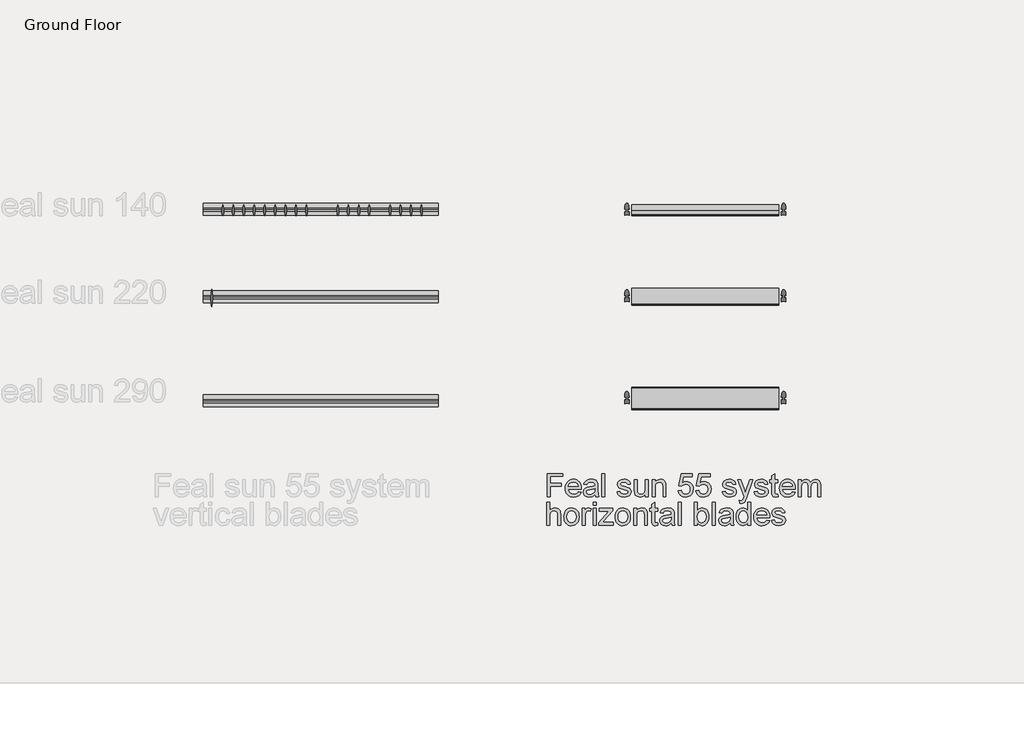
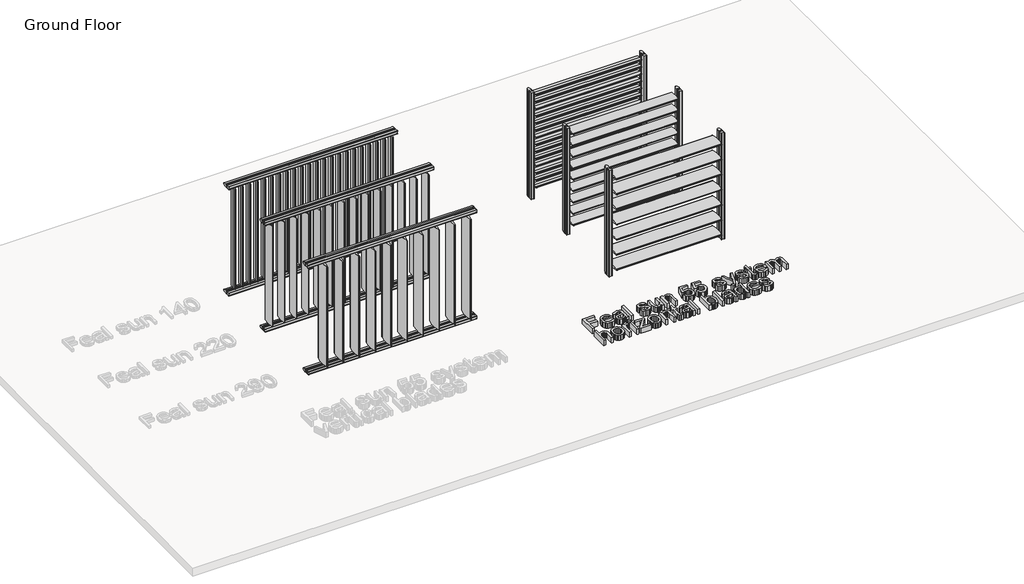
# One storey, part 3 of 3: 7 proxies.
"""IFC4 building model written with IfcOpenShell, lengths in millimetres."""

from ifc_helpers import new_model, si_unit, origin, origin_with_axes, place, context, project, spatial, polyline, outline, extrude, transform, mapped, element, save
from components import generic_models_d16fba78, generic_models_11b92442, generic_models_9e7b77c4, fsb_vertical_fsb_vertical_140_fa5a06af, fsb_vertical_fsb_vertical_140_c8c1adf7, fsb_vertical_fsb_vertical_220_f4ea950b, fsb_vertical_fsb_vertical_220_ec3d4603, fsb_vertical_fsb_vertical_290_152b3b5a

model = new_model("IFC4")

# Units and contexts
model_context = context("Model", 3, world=origin())
ifc_project = project(units=[si_unit("LENGTHUNIT", "METRE", prefix="MILLI")], contexts=[model_context])

# Site, building, storey
site = spatial("IfcSite", under=ifc_project)
building = spatial("IfcBuilding", under=site)
storey = spatial("IfcBuildingStorey", under=building, Name="Ground Floor", Elevation=0.0)

# Proxies
placement = place(None, origin())
generic_models_shape = generic_models_d16fba78(model_context)
element("IfcBuildingElementProxy", 1, Name="FSB_horizotal : FSB_horizotal_140", ObjectType="FSB_horizotal : FSB_horizotal_140", at=placement, inside=storey, context=model_context, shape_type="MappedRepresentation", body=[
    mapped(generic_models_shape, transform((7216.0522599, -5116.0917915, 0.0), x_axis=(1.0, 0.0, 0.0), y_axis=(0.0, 1.0, 0.0), z_axis=(0.0, 0.0, 1.0))),
])
generic_models_2_shape = generic_models_11b92442(model_context)
element("IfcBuildingElementProxy", 2, Name="FSB_horizotal : FSB_horizotal_220", ObjectType="FSB_horizotal : FSB_horizotal_220", at=placement, inside=storey, context=model_context, shape_type="MappedRepresentation", body=[
    mapped(generic_models_2_shape, transform((7216.0522599, -6216.0917915, 0.0), x_axis=(1.0, 0.0, 0.0), y_axis=(0.0, 1.0, 0.0), z_axis=(0.0, 0.0, 1.0))),
])
generic_models_3_shape = generic_models_9e7b77c4(model_context)
element("IfcBuildingElementProxy", 3, Name="FSB_horizotal : FSB_horizotal_290", ObjectType="FSB_horizotal : FSB_horizotal_290", at=placement, inside=storey, context=model_context, shape_type="MappedRepresentation", body=[
    mapped(generic_models_3_shape, transform((7216.0522599, -7516.0917915, 0.0), x_axis=(1.0, 0.0, 0.0), y_axis=(0.0, 1.0, 0.0), z_axis=(0.0, 0.0, 1.0))),
])
element("IfcBuildingElementProxy", 4, Name="600mm Arial", ObjectType="600mm Arial", at=placement, inside=storey, context=model_context, shape_type="SweptSolid", body=[
    extrude(outline(polyline([(5199.9729816, -8768.2185597), (5199.9729816, -8472.8339444), (5398.43452, -8472.8339444), (5398.43452, -8509.7570213), (5236.8960585, -8509.7570213), (5236.8960585, -8597.449329), (5375.357597, -8597.449329), (5375.357597, -8634.3724059), (5236.8960585, -8634.3724059), (5236.8960585, -8768.2185597), (5199.9729816, -8768.2185597)])), origin_with_axes(), (0.0, 0.0, 1.0), 100.0),
    extrude(outline(polyline([(5596.4633662, -8703.6031751), (5632.6652893, -8708.2185597), (5619.6214191, -8735.496204), (5598.8071162, -8755.886829), (5570.6911306, -8768.5971655), (5535.7422123, -8772.8339444), (5512.8320561, -8771.0062701), (5492.418895, -8765.5232472), (5474.5027292, -8756.3848759), (5459.0835585, -8743.5911559), (5446.6842196, -8727.4981571), (5437.8275489, -8708.4619492), (5432.5135465, -8686.4825321), (5430.7422123, -8661.5599059), (5432.5315753, -8635.7921775), (5437.8996643, -8613.0803386), (5446.8464792, -8593.4243891), (5459.37202, -8576.824329), (5474.7506258, -8563.636228), (5492.2566354, -8554.2161559), (5511.8900489, -8548.5641126), (5533.6508662, -8546.6800982), (5554.7108121, -8548.5596054), (5573.7560345, -8554.1981271), (5590.7865333, -8563.5956631), (5605.8023085, -8576.7522136), (5618.0596703, -8593.316216), (5626.8149287, -8612.9361078), (5632.0680837, -8635.6118891), (5633.8191354, -8661.3435597), (5633.6027893, -8671.2954828), (5467.6652893, -8671.2954828), (5474.0565152, -8698.933704), (5488.90327, -8719.2522136), (5510.3305537, -8731.746204), (5536.4633662, -8735.9108674), (5556.1148085, -8733.9817809), (5572.6652893, -8728.1945213), (5586.1148085, -8718.1885117), (5596.4633662, -8703.6031751)]), holes=[polyline([(5467.6652893, -8634.3724059), (5596.8960585, -8634.3724059), (5591.9020681, -8614.8651944), (5582.1124047, -8600.9108674), (5560.5859623, -8587.9300982), (5533.5066354, -8583.6031751), (5508.6178133, -8587.0556992), (5488.0378854, -8597.4132713), (5473.731996, -8613.558103), (5467.6652893, -8634.3724059)])]), origin_with_axes(), (0.0, 0.0, 1.0), 100.0),
    extrude(outline(polyline([(5809.2037508, -8740.5262521), (5791.5625248, -8755.652454), (5773.3984623, -8765.5502905), (5754.2968998, -8771.0130309), (5733.8431739, -8772.8339444), (5702.9868037, -8768.4529347), (5680.2253854, -8755.3099059), (5666.1899287, -8735.3519732), (5661.5114431, -8710.5262521), (5663.27827, -8695.2197617), (5668.5787508, -8681.3195213), (5676.7548325, -8669.4204828), (5687.1484623, -8660.1175982), (5713.0018277, -8648.0022136), (5744.9489431, -8642.449329), (5782.701347, -8636.6079828), (5808.9874047, -8629.7570213), (5809.2037508, -8621.5358674), (5806.6616835, -8605.0575021), (5799.0354816, -8594.2762521), (5781.9801931, -8586.2714444), (5758.2181739, -8583.6031751), (5736.2229816, -8585.3790165), (5720.8624047, -8590.7065405), (5710.387645, -8600.5593049), (5703.0499047, -8615.9108674), (5666.1268277, -8611.2954828), (5672.5360825, -8591.1031751), (5682.1003854, -8575.2377905), (5695.7121643, -8563.1043771), (5714.263847, -8554.1079828), (5736.9531498, -8548.5370694), (5762.9777893, -8546.6800982), (5787.9387268, -8548.3207232), (5807.7253854, -8553.2425982), (5822.6442556, -8560.6434396), (5833.0018277, -8569.7209636), (5839.8708181, -8580.9439203), (5844.3239431, -8594.7810597), (5846.1268277, -8627.0887521), (5846.1268277, -8673.0262521), (5848.0018277, -8737.1728867), (5855.357597, -8768.2185597), (5818.43452, -8768.2185597), (5809.2037508, -8740.5262521)]), holes=[polyline([(5809.2037508, -8666.6800982), (5749.6364431, -8678.0022136), (5717.8696162, -8683.9877905), (5703.482597, -8693.7233674), (5698.43452, -8707.9300982), (5701.1839191, -8718.9096655), (5709.4321162, -8727.9060597), (5722.9988229, -8733.9096655), (5741.7037508, -8735.9108674), (5761.5354816, -8733.7023338), (5779.05952, -8727.0767328), (5793.2662508, -8717.3141126), (5803.1460585, -8705.6945213), (5807.5270681, -8693.7233674), (5808.9874047, -8677.136829), (5809.2037508, -8666.6800982)])]), origin_with_axes(), (0.0, 0.0, 1.0), 100.0),
    extrude(outline(polyline([(5896.8960585, -8768.2185597), (5896.8960585, -8472.8339444), (5933.8191354, -8472.8339444), (5933.8191354, -8768.2185597), (5896.8960585, -8768.2185597)])), origin_with_axes(), (0.0, 0.0, 1.0), 100.0),
    extrude(outline(polyline([(6090.7422123, -8703.6031751), (6127.6652893, -8698.9877905), (6133.4886066, -8714.7810597), (6144.7566354, -8726.3916367), (6161.5414912, -8733.5310597), (6183.9152893, -8735.9108674), (6206.0186547, -8733.7293771), (6221.55952, -8727.1849059), (6230.7542316, -8717.7017328), (6233.8191354, -8706.7041367), (6230.7362027, -8697.293079), (6221.4874047, -8690.1175982), (6183.482597, -8679.5887521), (6127.8816354, -8661.5238482), (6113.810121, -8652.4463242), (6103.6148085, -8640.4300982), (6097.4218998, -8626.2413963), (6095.357597, -8610.6464444), (6097.0162508, -8596.3405549), (6101.9922123, -8583.1344251), (6109.8347604, -8571.5508915), (6120.0931739, -8562.1127905), (6143.5667316, -8551.1873097), (6175.3335585, -8546.6800982), (6199.3660104, -8548.4919972), (6220.2614431, -8553.9276944), (6237.0643277, -8562.4553386), (6248.8191354, -8573.543079), (6256.607597, -8588.011228), (6261.5114431, -8606.6800982), (6224.5883662, -8611.2954828), (6219.9279095, -8599.6758915), (6210.7061547, -8590.9228867), (6196.8329575, -8585.433103), (6178.2181739, -8583.6031751), (6157.0162508, -8585.3519732), (6142.8816354, -8590.5983674), (6134.9309143, -8598.1704828), (6132.2806739, -8606.8964444), (6136.6797123, -8617.6416367), (6150.4537508, -8625.7906751), (6182.2566354, -8633.6512521), (6236.451347, -8651.0310597), (6250.7662508, -8659.3423578), (6261.6196162, -8670.7185597), (6268.4615633, -8685.1957232), (6270.7422123, -8702.8099059), (6268.0649287, -8721.0190405), (6260.0330777, -8738.1464444), (6246.9531498, -8752.8489684), (6229.1316354, -8763.7834636), (6207.6051931, -8770.5713242), (6183.4104816, -8772.8339444), (6146.1809143, -8768.4709636), (6119.0114431, -8755.3820213), (6100.8744239, -8733.7113482), (6090.7422123, -8703.6031751)])), origin_with_axes(), (0.0, 0.0, 1.0), 100.0),
    extrude(outline(polyline([(6450.7422123, -8768.2185597), (6450.7422123, -8730.9349059), (6437.3828373, -8749.2657352), (6421.8239431, -8762.3591847), (6404.0655297, -8770.2152545), (6384.107597, -8772.8339444), (6366.1238229, -8770.9950021), (6349.3840393, -8765.4781751), (6335.3395681, -8757.1849059), (6325.4417316, -8747.0166367), (6314.4441354, -8719.8291367), (6312.2806739, -8685.5022136), (6312.2806739, -8551.2954828), (6349.2037508, -8551.2954828), (6349.2037508, -8668.1224059), (6351.4393277, -8705.7666367), (6356.8209383, -8718.323728), (6366.0426931, -8727.8700021), (6378.4916114, -8733.9006511), (6393.5547123, -8735.9108674), (6409.4831979, -8733.855579), (6424.3840393, -8727.6897136), (6436.6706979, -8717.9811799), (6444.7566354, -8705.2978867), (6449.2458181, -8687.9270934), (6450.7422123, -8664.1560597), (6450.7422123, -8551.2954828), (6487.6652893, -8551.2954828), (6487.6652893, -8768.2185597), (6450.7422123, -8768.2185597)])), origin_with_axes(), (0.0, 0.0, 1.0), 100.0),
    extrude(outline(polyline([(6538.43452, -8768.2185597), (6538.43452, -8551.2954828), (6575.357597, -8551.2954828), (6575.357597, -8581.5839444), (6588.185121, -8566.3135117), (6603.59077, -8555.4060597), (6621.5745441, -8548.8615886), (6642.1364431, -8546.6800982), (6660.3365633, -8548.4379107), (6677.0042316, -8553.7113482), (6690.904472, -8561.8423578), (6700.8023085, -8572.1728867), (6711.87202, -8599.324329), (6713.8191354, -8635.0214444), (6713.8191354, -8768.2185597), (6676.8960585, -8768.2185597), (6676.8960585, -8639.9974059), (6672.6412508, -8607.3291367), (6666.7548325, -8597.6025742), (6657.6051931, -8590.0575021), (6645.8774287, -8585.2167569), (6632.2566354, -8583.6031751), (6610.6310345, -8587.2269732), (6592.1965393, -8598.0983674), (6584.829502, -8606.973067), (6579.5673325, -8619.1019732), (6575.357597, -8653.1224059), (6575.357597, -8768.2185597), (6538.43452, -8768.2185597)])), origin_with_axes(), (0.0, 0.0, 1.0), 100.0),
    extrude(outline(polyline([(6870.7422123, -8689.7570213), (6907.6652893, -8685.1416367), (6914.4441354, -8707.308103), (6926.2710585, -8723.1825021), (6943.091972, -8732.7287761), (6964.8527893, -8735.9108674), (6991.3191354, -8731.4847857), (7011.1508662, -8718.2065405), (7023.5366835, -8697.6085838), (7027.6652893, -8671.2233674), (7023.7981018, -8646.3796174), (7012.1965393, -8627.3772136), (6992.7704575, -8615.3159155), (6965.4297123, -8611.2954828), (6947.5180537, -8612.9000501), (6933.013847, -8617.7137521), (6912.2806739, -8634.3724059), (6875.357597, -8629.7570213), (6907.6652893, -8477.449329), (7050.7422123, -8477.449329), (7050.7422123, -8514.3724059), (6937.5210585, -8514.3724059), (6921.7277893, -8595.7185597), (6948.1039912, -8579.7089444), (6975.7422123, -8574.3724059), (6993.7237328, -8576.0265525), (7010.2404095, -8580.9889924), (7025.2922424, -8589.2597256), (7038.8792316, -8600.8387521), (7050.126978, -8615.0184396), (7058.1610825, -8631.0911559), (7062.9815453, -8649.0569011), (7064.5883662, -8668.9156751), (7058.8011066, -8705.8387521), (7051.5670321, -8722.2990886), (7041.4393277, -8737.4252905), (7026.0967797, -8752.9165766), (7008.1941354, -8763.9817809), (6987.731395, -8770.6209035), (6964.7085585, -8772.8339444), (6928.4435345, -8767.1458434), (6913.0761967, -8760.0357172), (6899.5523085, -8750.0815405), (6888.3000549, -8737.7791066), (6879.747621, -8723.6242088), (6870.7422123, -8689.7570213)])), origin_with_axes(), (0.0, 0.0, 1.0), 100.0),
    extrude(outline(polyline([(7096.8960585, -8689.7570213), (7133.8191354, -8685.1416367), (7140.5979816, -8707.308103), (7152.4249047, -8723.1825021), (7169.2458181, -8732.7287761), (7191.0066354, -8735.9108674), (7217.4729816, -8731.4847857), (7237.3047123, -8718.2065405), (7249.6905297, -8697.6085838), (7253.8191354, -8671.2233674), (7249.9519479, -8646.3796174), (7238.3503854, -8627.3772136), (7218.9243037, -8615.3159155), (7191.5835585, -8611.2954828), (7173.6718998, -8612.9000501), (7159.1676931, -8617.7137521), (7138.43452, -8634.3724059), (7101.5114431, -8629.7570213), (7133.8191354, -8477.449329), (7276.8960585, -8477.449329), (7276.8960585, -8514.3724059), (7163.6749047, -8514.3724059), (7147.8816354, -8595.7185597), (7174.2578373, -8579.7089444), (7201.8960585, -8574.3724059), (7219.8775789, -8576.0265525), (7236.3942556, -8580.9889924), (7251.4460886, -8589.2597256), (7265.0330777, -8600.8387521), (7276.2808241, -8615.0184396), (7284.3149287, -8631.0911559), (7289.1353914, -8649.0569011), (7290.7422123, -8668.9156751), (7284.9549527, -8705.8387521), (7277.7208782, -8722.2990886), (7267.5931739, -8737.4252905), (7252.2506258, -8752.9165766), (7234.3479816, -8763.9817809), (7213.8852412, -8770.6209035), (7190.8624047, -8772.8339444), (7154.5973806, -8767.1458434), (7139.2300429, -8760.0357172), (7125.7061547, -8750.0815405), (7114.4539011, -8737.7791066), (7105.9014672, -8723.6242088), (7096.8960585, -8689.7570213)])), origin_with_axes(), (0.0, 0.0, 1.0), 100.0),
    extrude(outline(polyline([(7433.8191354, -8703.6031751), (7470.7422123, -8698.9877905), (7476.5655297, -8714.7810597), (7487.8335585, -8726.3916367), (7504.6184143, -8733.5310597), (7526.9922123, -8735.9108674), (7549.0955777, -8733.7293771), (7564.6364431, -8727.1849059), (7573.8311547, -8717.7017328), (7576.8960585, -8706.7041367), (7573.8131258, -8697.293079), (7564.5643277, -8690.1175982), (7526.55952, -8679.5887521), (7470.9585585, -8661.5238482), (7456.8870441, -8652.4463242), (7446.6917316, -8640.4300982), (7440.4988229, -8626.2413963), (7438.43452, -8610.6464444), (7440.0931739, -8596.3405549), (7445.0691354, -8583.1344251), (7452.9116835, -8571.5508915), (7463.170097, -8562.1127905), (7486.6436547, -8551.1873097), (7518.4104816, -8546.6800982), (7542.4429335, -8548.4919972), (7563.3383662, -8553.9276944), (7580.1412508, -8562.4553386), (7591.8960585, -8573.543079), (7599.68452, -8588.011228), (7604.5883662, -8606.6800982), (7567.6652893, -8611.2954828), (7563.0048325, -8599.6758915), (7553.7830777, -8590.9228867), (7539.9098806, -8585.433103), (7521.295097, -8583.6031751), (7500.0931739, -8585.3519732), (7485.9585585, -8590.5983674), (7478.0078373, -8598.1704828), (7475.357597, -8606.8964444), (7479.7566354, -8617.6416367), (7493.5306739, -8625.7906751), (7525.3335585, -8633.6512521), (7579.52827, -8651.0310597), (7593.8431739, -8659.3423578), (7604.6965393, -8670.7185597), (7611.5384864, -8685.1957232), (7613.8191354, -8702.8099059), (7611.1418518, -8721.0190405), (7603.1100008, -8738.1464444), (7590.0300729, -8752.8489684), (7572.2085585, -8763.7834636), (7550.6821162, -8770.5713242), (7526.4874047, -8772.8339444), (7489.2578373, -8768.4709636), (7462.0883662, -8755.3820213), (7443.951347, -8733.7113482), (7433.8191354, -8703.6031751)])), origin_with_axes(), (0.0, 0.0, 1.0), 100.0),
    extrude(outline(polyline([(7655.357597, -8851.2954828), (7650.7422123, -8815.7425982), (7669.4922123, -8818.9877905), (7687.0162508, -8814.9132713), (7697.7614431, -8803.5550982), (7707.857597, -8776.3675982), (7710.7422123, -8767.4252905), (7632.2806739, -8551.2954828), (7671.2229816, -8551.2954828), (7712.8335585, -8671.7281751), (7727.3287508, -8719.9012521), (7741.8239431, -8677.3531751), (7784.5883662, -8551.2954828), (7823.2422123, -8551.2954828), (7747.7374047, -8773.4108674), (7728.12202, -8821.5839444), (7718.0799527, -8836.9625501), (7706.7037508, -8847.6175982), (7693.4886066, -8853.8375501), (7677.9297123, -8855.9108674), (7655.357597, -8851.2954828)])), origin_with_axes(), (0.0, 0.0, 1.0), 100.0),
    extrude(outline(polyline([(7839.9729816, -8703.6031751), (7876.8960585, -8698.9877905), (7882.7193758, -8714.7810597), (7893.9874047, -8726.3916367), (7910.7722604, -8733.5310597), (7933.1460585, -8735.9108674), (7955.2494239, -8733.7293771), (7970.7902893, -8727.1849059), (7979.9850008, -8717.7017328), (7983.0499047, -8706.7041367), (7979.966972, -8697.293079), (7970.7181739, -8690.1175982), (7932.7133662, -8679.5887521), (7877.1124047, -8661.5238482), (7863.0408902, -8652.4463242), (7852.8455777, -8640.4300982), (7846.6526691, -8626.2413963), (7844.5883662, -8610.6464444), (7846.24702, -8596.3405549), (7851.2229816, -8583.1344251), (7859.0655297, -8571.5508915), (7869.3239431, -8562.1127905), (7892.7975008, -8551.1873097), (7924.5643277, -8546.6800982), (7948.5967797, -8548.4919972), (7969.4922123, -8553.9276944), (7986.295097, -8562.4553386), (7998.0499047, -8573.543079), (8005.8383662, -8588.011228), (8010.7422123, -8606.6800982), (7973.8191354, -8611.2954828), (7969.1586787, -8599.6758915), (7959.9369239, -8590.9228867), (7946.0637268, -8585.433103), (7927.4489431, -8583.6031751), (7906.24702, -8585.3519732), (7892.1124047, -8590.5983674), (7884.1616835, -8598.1704828), (7881.5114431, -8606.8964444), (7885.9104816, -8617.6416367), (7899.68452, -8625.7906751), (7931.4874047, -8633.6512521), (7985.6821162, -8651.0310597), (7999.99702, -8659.3423578), (8010.8503854, -8670.7185597), (8017.6923325, -8685.1957232), (8019.9729816, -8702.8099059), (8017.2956979, -8721.0190405), (8009.263847, -8738.1464444), (7996.1839191, -8752.8489684), (7978.3624047, -8763.7834636), (7956.8359623, -8770.5713242), (7932.6412508, -8772.8339444), (7895.4116835, -8768.4709636), (7868.2422123, -8755.3820213), (7850.1051931, -8733.7113482), (7839.9729816, -8703.6031751)])), origin_with_axes(), (0.0, 0.0, 1.0), 100.0),
    extrude(outline(polyline([(8139.9729816, -8737.4252905), (8144.5883662, -8769.3002905), (8116.9681739, -8772.8339444), (8099.2458181, -8771.3014924), (8086.0306739, -8766.7041367), (8076.6917316, -8759.6188001), (8070.5979816, -8750.6224059), (8067.2446162, -8735.1716847), (8066.1268277, -8708.7233674), (8066.1268277, -8588.2185597), (8038.43452, -8588.2185597), (8038.43452, -8551.2954828), (8066.1268277, -8551.2954828), (8066.1268277, -8498.5791367), (8103.0499047, -8476.8724059), (8103.0499047, -8551.2954828), (8139.9729816, -8551.2954828), (8139.9729816, -8588.2185597), (8103.0499047, -8588.2185597), (8103.0499047, -8707.6416367), (8104.99702, -8726.6800982), (8111.3071162, -8733.4228867), (8123.8912508, -8735.9108674), (8139.9729816, -8737.4252905)])), origin_with_axes(), (0.0, 0.0, 1.0), 100.0),
    extrude(outline(polyline([(8328.7710585, -8703.6031751), (8364.9729816, -8708.2185597), (8351.9291114, -8735.496204), (8331.1148085, -8755.886829), (8302.9988229, -8768.5971655), (8268.0499047, -8772.8339444), (8245.1397484, -8771.0062701), (8224.7265873, -8765.5232472), (8206.8104215, -8756.3848759), (8191.3912508, -8743.5911559), (8178.9919119, -8727.4981571), (8170.1352412, -8708.4619492), (8164.8212388, -8686.4825321), (8163.0499047, -8661.5599059), (8164.8392676, -8635.7921775), (8170.2073566, -8613.0803386), (8179.1541715, -8593.4243891), (8191.6797123, -8576.824329), (8207.0583181, -8563.636228), (8224.5643277, -8554.2161559), (8244.1977412, -8548.5641126), (8265.9585585, -8546.6800982), (8287.0185044, -8548.5596054), (8306.0637268, -8554.1981271), (8323.0942256, -8563.5956631), (8338.1100008, -8576.7522136), (8350.3673626, -8593.316216), (8359.122621, -8612.9361078), (8364.3757761, -8635.6118891), (8366.1268277, -8661.3435597), (8365.9104816, -8671.2954828), (8199.9729816, -8671.2954828), (8206.3642075, -8698.933704), (8221.2109623, -8719.2522136), (8242.638246, -8731.746204), (8268.7710585, -8735.9108674), (8288.4225008, -8733.9817809), (8304.9729816, -8728.1945213), (8318.4225008, -8718.1885117), (8328.7710585, -8703.6031751)]), holes=[polyline([(8199.9729816, -8634.3724059), (8329.2037508, -8634.3724059), (8324.2097604, -8614.8651944), (8314.420097, -8600.9108674), (8292.8936547, -8587.9300982), (8265.8143277, -8583.6031751), (8240.9255056, -8587.0556992), (8220.3455777, -8597.4132713), (8206.0396883, -8613.558103), (8199.9729816, -8634.3724059)])]), origin_with_axes(), (0.0, 0.0, 1.0), 100.0),
    extrude(outline(polyline([(8403.0499047, -8768.2185597), (8403.0499047, -8551.2954828), (8439.9729816, -8551.2954828), (8439.9729816, -8586.9925982), (8451.0787508, -8570.5953626), (8465.357597, -8557.7498097), (8482.3227412, -8549.4475261), (8501.4874047, -8546.6800982), (8522.0222604, -8549.5016126), (8538.482597, -8557.9661559), (8550.77827, -8571.5148338), (8558.8191354, -8589.5887521), (8572.2776691, -8570.816216), (8587.6292316, -8557.4072617), (8604.8738229, -8549.3618891), (8624.0114431, -8546.6800982), (8651.7668518, -8551.1422376), (8672.2926931, -8564.5286559), (8684.9759864, -8587.1999299), (8689.2037508, -8619.5166367), (8689.2037508, -8768.2185597), (8652.2806739, -8768.2185597), (8652.2806739, -8635.3820213), (8648.8551931, -8604.5526944), (8644.0414912, -8596.0520934), (8636.451347, -8589.3724059), (8626.6887268, -8585.0454828), (8615.357597, -8583.6031751), (8595.3545922, -8587.2990886), (8579.0475008, -8598.386829), (8568.2031498, -8617.6236078), (8564.5883662, -8645.7666367), (8564.5883662, -8768.2185597), (8527.6652893, -8768.2185597), (8527.6652893, -8631.2714444), (8525.528871, -8610.3940405), (8519.1196162, -8595.5022136), (8507.8425729, -8586.5779347), (8491.1027893, -8583.6031751), (8476.8780297, -8585.5863482), (8463.7710585, -8591.5358674), (8452.9537508, -8601.3075021), (8445.5979816, -8614.7570213), (8441.3792316, -8633.4168771), (8439.9729816, -8658.8195213), (8439.9729816, -8768.2185597), (8403.0499047, -8768.2185597)])), origin_with_axes(), (0.0, 0.0, 1.0), 100.0),
    extrude(outline(polyline([(5195.357597, -9132.8339444), (5195.357597, -8837.449329), (5232.2806739, -8837.449329), (5232.2806739, -8946.0550982), (5245.8428734, -8930.8477665), (5261.0727412, -8919.9853867), (5277.9702773, -8913.4679588), (5296.5354816, -8911.2954828), (5318.8371643, -8913.6662761), (5338.0018277, -8920.7786559), (5353.091972, -8932.073728), (5363.170097, -8946.9925982), (5368.8491835, -8967.4913963), (5370.7422123, -8995.5262521), (5370.7422123, -9132.8339444), (5333.8191354, -9132.8339444), (5333.8191354, -8999.3483674), (5330.8804335, -8976.2353867), (5322.0643277, -8960.4060597), (5307.857597, -8951.2654347), (5288.74702, -8948.2185597), (5273.1430537, -8950.2738482), (5258.4946162, -8956.4397136), (5246.3612027, -8966.121204), (5238.3023085, -8978.7233674), (5233.7860825, -8995.4721655), (5232.2806739, -9017.5935597), (5232.2806739, -9132.8339444), (5195.357597, -9132.8339444)])), origin_with_axes(), (0.0, 0.0, 1.0), 100.0),
    extrude(outline(polyline([(5412.2806739, -9024.3724059), (5414.2773686, -8996.2789564), (5420.2674527, -8972.0707232), (5430.2509263, -8951.7477064), (5444.2277893, -8935.3099059), (5458.2993037, -8924.8035958), (5473.8311547, -8917.2990886), (5490.8233422, -8912.7963843), (5509.2758662, -8911.2954828), (5529.6462087, -8913.1231571), (5548.0649287, -8918.6061799), (5564.5320261, -8927.7445513), (5579.0475008, -8940.5382713), (5590.8947063, -8956.5546475), (5599.356996, -8975.3609876), (5604.4343698, -8996.9572917), (5606.1268277, -9021.3435597), (5603.1340393, -9058.6452424), (5594.1556739, -9087.0406751), (5579.4531498, -9108.3056992), (5559.2878854, -9124.2161559), (5535.3365633, -9134.1410357), (5509.2758662, -9137.449329), (5488.6080477, -9135.6284155), (5470.0180537, -9130.1656751), (5453.5058842, -9121.0611078), (5439.0715393, -9108.3147136), (5427.3505357, -9092.1428386), (5418.9783902, -9072.761829), (5413.955103, -9050.1716847), (5412.2806739, -9024.3724059)]), holes=[polyline([(5449.2037508, -9024.3002905), (5453.4765873, -9057.7167569), (5466.295097, -9081.5238482), (5485.5859623, -9095.7756511), (5509.2758662, -9100.5262521), (5532.857597, -9095.7486078), (5552.1124047, -9081.4156751), (5564.9309143, -9057.293079), (5569.2037508, -9023.1464444), (5564.903871, -8990.7035357), (5552.0042316, -8967.2209636), (5532.7223806, -8952.9691607), (5509.2758662, -8948.2185597), (5485.5859623, -8952.9511319), (5466.295097, -8967.1488482), (5453.4765873, -8990.901853), (5449.2037508, -9024.3002905)])]), origin_with_axes(), (0.0, 0.0, 1.0), 100.0),
    extrude(outline(polyline([(5647.6652893, -9132.8339444), (5647.6652893, -8915.9108674), (5679.9729816, -8915.9108674), (5679.9729816, -8948.0022136), (5691.9080777, -8929.3964444), (5702.9056739, -8918.4349059), (5713.9393277, -8913.0803386), (5725.982597, -8911.2954828), (5744.37202, -8914.1440405), (5763.0499047, -8922.6897136), (5750.7181739, -8955.7906751), (5737.7374047, -8950.1115886), (5724.7566354, -8948.2185597), (5713.731996, -8950.0394732), (5703.8792316, -8955.5022136), (5695.919496, -8964.1921174), (5690.5739431, -8975.6945213), (5686.0847604, -8996.3195213), (5684.5883662, -9018.8195213), (5684.5883662, -9132.8339444), (5647.6652893, -9132.8339444)])), origin_with_axes(), (0.0, 0.0, 1.0), 100.0),
    extrude(outline(polyline([(5786.1268277, -9132.8339444), (5786.1268277, -8915.9108674), (5823.0499047, -8915.9108674), (5823.0499047, -9132.8339444), (5786.1268277, -9132.8339444)])), origin_with_axes(), (0.0, 0.0, 1.0), 100.0),
    extrude(outline(polyline([(5786.1268277, -8874.3724059), (5786.1268277, -8837.449329), (5823.0499047, -8837.449329), (5823.0499047, -8874.3724059), (5786.1268277, -8874.3724059)])), origin_with_axes(), (0.0, 0.0, 1.0), 100.0),
    extrude(outline(polyline([(5855.357597, -9132.8339444), (5855.357597, -9098.074329), (5982.7854816, -8952.8339444), (5945.0691354, -8952.8339444), (5864.5883662, -8952.8339444), (5864.5883662, -8915.9108674), (6035.357597, -8915.9108674), (6035.357597, -8947.2810597), (5922.3527893, -9076.1512521), (5905.045097, -9095.9108674), (5947.7374047, -9095.9108674), (6039.9729816, -9095.9108674), (6039.9729816, -9132.8339444), (5855.357597, -9132.8339444)])), origin_with_axes(), (0.0, 0.0, 1.0), 100.0),
    extrude(outline(polyline([(6067.6652893, -9024.3724059), (6069.661984, -8996.2789564), (6075.6520681, -8972.0707232), (6085.6355417, -8951.7477064), (6099.6124047, -8935.3099059), (6113.6839191, -8924.8035958), (6129.21577, -8917.2990886), (6146.2079575, -8912.7963843), (6164.6604816, -8911.2954828), (6185.0308241, -8913.1231571), (6203.4495441, -8918.6061799), (6219.9166414, -8927.7445513), (6234.4321162, -8940.5382713), (6246.2793217, -8956.5546475), (6254.7416114, -8975.3609876), (6259.8189852, -8996.9572917), (6261.5114431, -9021.3435597), (6258.5186547, -9058.6452424), (6249.5402893, -9087.0406751), (6234.8377652, -9108.3056992), (6214.6725008, -9124.2161559), (6190.7211787, -9134.1410357), (6164.6604816, -9137.449329), (6143.9926631, -9135.6284155), (6125.4026691, -9130.1656751), (6108.8904996, -9121.0611078), (6094.4561547, -9108.3147136), (6082.7351511, -9092.1428386), (6074.3630056, -9072.761829), (6069.3397184, -9050.1716847), (6067.6652893, -9024.3724059)]), holes=[polyline([(6104.5883662, -9024.3002905), (6108.8612027, -9057.7167569), (6121.6797123, -9081.5238482), (6140.9705777, -9095.7756511), (6164.6604816, -9100.5262521), (6188.2422123, -9095.7486078), (6207.49702, -9081.4156751), (6220.3155297, -9057.293079), (6224.5883662, -9023.1464444), (6220.2884864, -8990.7035357), (6207.388847, -8967.2209636), (6188.106996, -8952.9691607), (6164.6604816, -8948.2185597), (6140.9705777, -8952.9511319), (6121.6797123, -8967.1488482), (6108.8612027, -8990.901853), (6104.5883662, -9024.3002905)])]), origin_with_axes(), (0.0, 0.0, 1.0), 100.0),
    extrude(outline(polyline([(6303.0499047, -9132.8339444), (6303.0499047, -8915.9108674), (6339.9729816, -8915.9108674), (6339.9729816, -8946.199329), (6352.8005056, -8930.9288963), (6368.2061547, -8920.0214444), (6386.1899287, -8913.4769732), (6406.7518277, -8911.2954828), (6424.9519479, -8913.0532953), (6441.6196162, -8918.3267328), (6455.5198566, -8926.4577424), (6465.4176931, -8936.7882713), (6476.4874047, -8963.9397136), (6478.43452, -8999.636829), (6478.43452, -9132.8339444), (6441.5114431, -9132.8339444), (6441.5114431, -9004.6127905), (6437.2566354, -8971.9445213), (6431.3702172, -8962.2179588), (6422.2205777, -8954.6728867), (6410.4928133, -8949.8321415), (6396.87202, -8948.2185597), (6375.2464191, -8951.8423578), (6356.8119239, -8962.7137521), (6349.4448866, -8971.5884516), (6344.1827172, -8983.7173578), (6339.9729816, -9017.7377905), (6339.9729816, -9132.8339444), (6303.0499047, -9132.8339444)])), origin_with_axes(), (0.0, 0.0, 1.0), 100.0),
    extrude(outline(polyline([(6607.6652893, -9102.0406751), (6612.2806739, -9133.9156751), (6584.6604816, -9137.449329), (6566.9381258, -9135.9168771), (6553.7229816, -9131.3195213), (6544.3840393, -9124.2341847), (6538.2902893, -9115.2377905), (6534.9369239, -9099.7870694), (6533.8191354, -9073.3387521), (6533.8191354, -8952.8339444), (6506.1268277, -8952.8339444), (6506.1268277, -8915.9108674), (6533.8191354, -8915.9108674), (6533.8191354, -8863.1945213), (6570.7422123, -8841.4877905), (6570.7422123, -8915.9108674), (6607.6652893, -8915.9108674), (6607.6652893, -8952.8339444), (6570.7422123, -8952.8339444), (6570.7422123, -9072.2570213), (6572.6893277, -9091.2954828), (6578.9994239, -9098.0382713), (6591.5835585, -9100.5262521), (6607.6652893, -9102.0406751)])), origin_with_axes(), (0.0, 0.0, 1.0), 100.0),
    extrude(outline(polyline([(6783.0499047, -9105.1416367), (6765.4086787, -9120.2678386), (6747.2446162, -9130.1656751), (6728.1430537, -9135.6284155), (6707.6893277, -9137.449329), (6676.8329575, -9133.0683194), (6654.0715393, -9119.9252905), (6640.0360825, -9099.9673578), (6635.357597, -9075.1416367), (6637.1244239, -9059.8351463), (6642.4249047, -9045.9349059), (6650.6009864, -9034.0358674), (6660.9946162, -9024.7329828), (6686.8479816, -9012.6175982), (6718.795097, -9007.0647136), (6756.5475008, -9001.2233674), (6782.8335585, -8994.3724059), (6783.0499047, -8986.1512521), (6780.5078373, -8969.6728867), (6772.8816354, -8958.8916367), (6755.826347, -8950.886829), (6732.0643277, -8948.2185597), (6710.0691354, -8949.9944011), (6694.7085585, -8955.3219251), (6684.2337989, -8965.1746896), (6676.8960585, -8980.5262521), (6639.9729816, -8975.9108674), (6646.3822364, -8955.7185597), (6655.9465393, -8939.8531751), (6669.5583181, -8927.7197617), (6688.1100008, -8918.7233674), (6710.7993037, -8913.152454), (6736.8239431, -8911.2954828), (6761.7848806, -8912.9361078), (6781.5715393, -8917.8579828), (6796.4904095, -8925.2588242), (6806.8479816, -8934.3363482), (6813.716972, -8945.5593049), (6818.170097, -8959.3964444), (6819.9729816, -8991.7041367), (6819.9729816, -9037.6416367), (6821.8479816, -9101.7882713), (6829.2037508, -9132.8339444), (6792.2806739, -9132.8339444), (6783.0499047, -9105.1416367)]), holes=[polyline([(6783.0499047, -9031.2954828), (6723.482597, -9042.6175982), (6691.71577, -9048.6031751), (6677.3287508, -9058.3387521), (6672.2806739, -9072.5454828), (6675.0300729, -9083.5250501), (6683.27827, -9092.5214444), (6696.8449768, -9098.5250501), (6715.5499047, -9100.5262521), (6735.3816354, -9098.3177184), (6752.9056739, -9091.6921174), (6767.1124047, -9081.9294972), (6776.9922123, -9070.3099059), (6781.373222, -9058.3387521), (6782.8335585, -9041.7522136), (6783.0499047, -9031.2954828)])]), origin_with_axes(), (0.0, 0.0, 1.0), 100.0),
    extrude(outline(polyline([(6870.7422123, -9132.8339444), (6870.7422123, -8837.449329), (6907.6652893, -8837.449329), (6907.6652893, -9132.8339444), (6870.7422123, -9132.8339444)])), origin_with_axes(), (0.0, 0.0, 1.0), 100.0),
    extrude(outline(polyline([(7115.357597, -9132.8339444), (7078.43452, -9132.8339444), (7078.43452, -8837.449329), (7115.357597, -8837.449329), (7115.357597, -8946.9925982), (7127.5000248, -8931.3751102), (7141.2109623, -8920.2197617), (7156.4904095, -8913.5265525), (7173.3383662, -8911.2954828), (7192.3587989, -8913.3056992), (7210.3335585, -8919.3363482), (7226.2350008, -8929.0088242), (7239.0354816, -8941.9445213), (7249.0685345, -8958.0172376), (7256.6676931, -8977.1007713), (7261.4543518, -8998.401853), (7263.0499047, -9021.1272136), (7261.3980116, -9047.3501703), (7256.4423325, -9070.418079), (7248.1828674, -9090.3309396), (7236.6196162, -9107.0887521), (7222.7396583, -9120.3715045), (7207.5300729, -9129.8591847), (7190.9908602, -9135.5517929), (7173.12202, -9137.449329), (7155.7196763, -9135.0019131), (7140.2914912, -9127.6596655), (7126.8374648, -9115.4225862), (7115.357597, -9098.2906751), (7115.357597, -9132.8339444)]), holes=[polyline([(7115.357597, -9022.8579828), (7117.8816354, -9053.6512521), (7125.4537508, -9074.4925982), (7134.4005657, -9085.8823218), (7144.7987027, -9094.0178386), (7156.6481619, -9098.8991487), (7169.9489431, -9100.5262521), (7191.2590393, -9095.730579), (7209.4681739, -9081.3435597), (7221.9621643, -9057.4553386), (7226.1268277, -9024.1560597), (7222.1334383, -8990.3700021), (7210.15327, -8966.7522136), (7192.5120441, -8952.8519732), (7171.5354816, -8948.2185597), (7150.2253854, -8953.0142328), (7132.0162508, -8967.4012521), (7119.5222604, -8990.8567809), (7115.357597, -9022.8579828)])]), origin_with_axes(), (0.0, 0.0, 1.0), 100.0),
    extrude(outline(polyline([(7304.5883662, -9132.8339444), (7304.5883662, -8837.449329), (7341.5114431, -8837.449329), (7341.5114431, -9132.8339444), (7304.5883662, -9132.8339444)])), origin_with_axes(), (0.0, 0.0, 1.0), 100.0),
    extrude(outline(polyline([(7535.357597, -9105.1416367), (7517.716371, -9120.2678386), (7499.5523085, -9130.1656751), (7480.450746, -9135.6284155), (7459.99702, -9137.449329), (7429.1406498, -9133.0683194), (7406.3792316, -9119.9252905), (7392.3437748, -9099.9673578), (7387.6652893, -9075.1416367), (7389.4321162, -9059.8351463), (7394.732597, -9045.9349059), (7402.9086787, -9034.0358674), (7413.3023085, -9024.7329828), (7439.1556739, -9012.6175982), (7471.1027893, -9007.0647136), (7508.8551931, -9001.2233674), (7535.1412508, -8994.3724059), (7535.357597, -8986.1512521), (7532.8155297, -8969.6728867), (7525.1893277, -8958.8916367), (7508.1340393, -8950.886829), (7484.37202, -8948.2185597), (7462.3768277, -8949.9944011), (7447.0162508, -8955.3219251), (7436.5414912, -8965.1746896), (7429.2037508, -8980.5262521), (7392.2806739, -8975.9108674), (7398.6899287, -8955.7185597), (7408.2542316, -8939.8531751), (7421.8660104, -8927.7197617), (7440.4176931, -8918.7233674), (7463.106996, -8913.152454), (7489.1316354, -8911.2954828), (7514.0925729, -8912.9361078), (7533.8792316, -8917.8579828), (7548.7981018, -8925.2588242), (7559.1556739, -8934.3363482), (7566.0246643, -8945.5593049), (7570.4777893, -8959.3964444), (7572.2806739, -8991.7041367), (7572.2806739, -9037.6416367), (7574.1556739, -9101.7882713), (7581.5114431, -9132.8339444), (7544.5883662, -9132.8339444), (7535.357597, -9105.1416367)]), holes=[polyline([(7535.357597, -9031.2954828), (7475.7902893, -9042.6175982), (7444.0234623, -9048.6031751), (7429.6364431, -9058.3387521), (7424.5883662, -9072.5454828), (7427.3377652, -9083.5250501), (7435.5859623, -9092.5214444), (7449.1526691, -9098.5250501), (7467.857597, -9100.5262521), (7487.6893277, -9098.3177184), (7505.2133662, -9091.6921174), (7519.420097, -9081.9294972), (7529.2999047, -9070.3099059), (7533.6809143, -9058.3387521), (7535.1412508, -9041.7522136), (7535.357597, -9031.2954828)])]), origin_with_axes(), (0.0, 0.0, 1.0), 100.0),
    extrude(outline(polyline([(7756.8960585, -9132.8339444), (7756.8960585, -9098.0022136), (7745.848883, -9115.2603266), (7732.466972, -9127.5875501), (7716.7503253, -9134.9838843), (7698.6989431, -9137.449329), (7674.8287508, -9133.8796174), (7652.9777893, -9123.1704828), (7634.4801931, -9106.0701222), (7620.670097, -9083.3267328), (7612.0703373, -9055.8597857), (7609.2037508, -9024.5887521), (7611.8449768, -8993.7053386), (7619.7686547, -8965.8147136), (7632.96577, -8942.5034155), (7651.4273085, -8925.3579828), (7673.7560345, -8914.8111078), (7698.5547123, -8911.2954828), (7716.6196162, -8913.8105069), (7732.5931739, -8921.355579), (7746.1328373, -8932.9210838), (7756.8960585, -8947.4974059), (7756.8960585, -8837.449329), (7793.8191354, -8837.449329), (7793.8191354, -9132.8339444), (7756.8960585, -9132.8339444)]), holes=[polyline([(7646.1268277, -9024.4445213), (7650.2914912, -9057.8429588), (7662.7854816, -9081.5959636), (7680.9405297, -9095.7936799), (7702.0883662, -9100.5262521), (7723.2271883, -9096.0100261), (7740.9225008, -9082.4613482), (7752.9026691, -9059.6278146), (7756.8960585, -9027.2570213), (7752.8305537, -8991.8663963), (7740.6340393, -8967.3291367), (7722.4880056, -8952.996204), (7700.5739431, -8948.2185597), (7679.2097604, -8952.8069011), (7661.7037508, -8966.5719251), (7650.0210585, -8990.2167569), (7646.1268277, -9024.4445213)])]), origin_with_axes(), (0.0, 0.0, 1.0), 100.0),
    extrude(outline(polyline([(8001.0787508, -9068.2185597), (8037.2806739, -9072.8339444), (8024.2368037, -9100.1115886), (8003.4225008, -9120.5022136), (7975.3065152, -9133.2125501), (7940.357597, -9137.449329), (7917.4474407, -9135.6216547), (7897.0342797, -9130.1386319), (7879.1181138, -9121.0002605), (7863.6989431, -9108.2065405), (7851.2996042, -9092.1135417), (7842.4429335, -9073.0773338), (7837.1289311, -9051.0979167), (7835.357597, -9026.1752905), (7837.1469599, -9000.4075622), (7842.5150489, -8977.6957232), (7851.4618638, -8958.0397737), (7863.9874047, -8941.4397136), (7879.3660104, -8928.2516126), (7896.87202, -8918.8315405), (7916.5054335, -8913.1794972), (7938.2662508, -8911.2954828), (7959.3261967, -8913.17499), (7978.3714191, -8918.8135117), (7995.4019179, -8928.2110477), (8010.4176931, -8941.3675982), (8022.6750549, -8957.9316006), (8031.4303133, -8977.5514924), (8036.6834684, -9000.2272737), (8038.43452, -9025.9589444), (8038.2181739, -9035.9108674), (7872.2806739, -9035.9108674), (7878.6718998, -9063.5490886), (7893.5186547, -9083.8675982), (7914.9459383, -9096.3615886), (7941.0787508, -9100.5262521), (7960.7301931, -9098.5971655), (7977.2806739, -9092.8099059), (7990.7301931, -9082.8038963), (8001.0787508, -9068.2185597)]), holes=[polyline([(7872.2806739, -8998.9877905), (8001.5114431, -8998.9877905), (7996.5174527, -8979.480579), (7986.7277893, -8965.5262521), (7965.201347, -8952.5454828), (7938.12202, -8948.2185597), (7913.2331979, -8951.6710838), (7892.65327, -8962.0286559), (7878.3473806, -8978.1734876), (7872.2806739, -8998.9877905)])]), origin_with_axes(), (0.0, 0.0, 1.0), 100.0),
    extrude(outline(polyline([(8061.5114431, -9068.2185597), (8098.43452, -9063.6031751), (8104.2578373, -9079.3964444), (8115.5258662, -9091.0070213), (8132.310722, -9098.1464444), (8154.68452, -9100.5262521), (8176.7878854, -9098.3447617), (8192.3287508, -9091.8002905), (8201.5234623, -9082.3171174), (8204.5883662, -9071.3195213), (8201.5054335, -9061.9084636), (8192.2566354, -9054.7329828), (8154.2518277, -9044.2041367), (8098.6508662, -9026.1392328), (8084.5793518, -9017.0617088), (8074.3840393, -9005.0454828), (8068.1911306, -8990.8567809), (8066.1268277, -8975.261829), (8067.7854816, -8960.9559396), (8072.7614431, -8947.7498097), (8080.6039912, -8936.1662761), (8090.8624047, -8926.7281751), (8114.3359623, -8915.8026944), (8146.1027893, -8911.2954828), (8170.1352412, -8913.1073819), (8191.0306739, -8918.543079), (8207.8335585, -8927.0707232), (8219.5883662, -8938.1584636), (8227.3768277, -8952.6266126), (8232.2806739, -8971.2954828), (8195.357597, -8975.9108674), (8190.6971402, -8964.2912761), (8181.4753854, -8955.5382713), (8167.6021883, -8950.0484876), (8148.9874047, -8948.2185597), (8127.7854816, -8949.9673578), (8113.6508662, -8955.2137521), (8105.700145, -8962.7858674), (8103.0499047, -8971.511829), (8107.4489431, -8982.2570213), (8121.2229816, -8990.4060597), (8153.0258662, -8998.2666367), (8207.2205777, -9015.6464444), (8221.5354816, -9023.9577424), (8232.388847, -9035.3339444), (8239.2307941, -9049.8111078), (8241.5114431, -9067.4252905), (8238.8341595, -9085.6344251), (8230.8023085, -9102.761829), (8217.7223806, -9117.464353), (8199.9008662, -9128.3988482), (8178.3744239, -9135.1867088), (8154.1797123, -9137.449329), (8116.950145, -9133.0863482), (8089.7806739, -9119.9974059), (8071.6436547, -9098.3267328), (8061.5114431, -9068.2185597)])), origin_with_axes(), (0.0, 0.0, 1.0), 100.0),
])
fsb_vertical_fsb_vertical_140_shape = fsb_vertical_fsb_vertical_140_fa5a06af(model_context)
fsb_vertical_fsb_vertical_140_2_shape = fsb_vertical_fsb_vertical_140_c8c1adf7(model_context)
element("IfcBuildingElementProxy", 5, Name="FSB_vertical : FSB_vertical_140", ObjectType="FSB_vertical : FSB_vertical_140", at=placement, inside=storey, context=model_context, shape_type="MappedRepresentation", body=[
    mapped(fsb_vertical_fsb_vertical_140_shape, transform((2311.0404205, -5116.0917915, 100.0), x_axis=(1.0, 0.0, 0.0), y_axis=(0.0, 1.0, 0.0), z_axis=(0.0, 0.0, 1.0))),
    mapped(fsb_vertical_fsb_vertical_140_2_shape, transform((2311.0404205, -5116.0917915, 100.0), x_axis=(1.0, 0.0, 0.0), y_axis=(0.0, 1.0, 0.0), z_axis=(0.0, 0.0, 1.0))),
])
fsb_vertical_fsb_vertical_220_shape = fsb_vertical_fsb_vertical_220_f4ea950b(model_context)
fsb_vertical_fsb_vertical_220_2_shape = fsb_vertical_fsb_vertical_220_ec3d4603(model_context)
element("IfcBuildingElementProxy", 6, Name="FSB_vertical : FSB_vertical_220", ObjectType="FSB_vertical : FSB_vertical_220", at=placement, inside=storey, context=model_context, shape_type="MappedRepresentation", body=[
    mapped(fsb_vertical_fsb_vertical_220_shape, transform((2311.0404205, -6233.1485781, 100.0), x_axis=(1.0, 0.0, 0.0), y_axis=(0.0, 1.0, 0.0), z_axis=(0.0, 0.0, 1.0))),
    mapped(fsb_vertical_fsb_vertical_220_2_shape, transform((2311.0404205, -6233.1485781, 100.0), x_axis=(1.0, 0.0, 0.0), y_axis=(0.0, 1.0, 0.0), z_axis=(0.0, 0.0, 1.0))),
])
fsb_vertical_fsb_vertical_290_shape = fsb_vertical_fsb_vertical_290_152b3b5a(model_context)
element("IfcBuildingElementProxy", 7, Name="FSB_vertical : FSB_vertical_290", ObjectType="FSB_vertical : FSB_vertical_290", at=placement, inside=storey, context=model_context, shape_type="MappedRepresentation", body=[
    mapped(fsb_vertical_fsb_vertical_290_shape, transform((2311.0404205, -7558.1485781, 100.0), x_axis=(1.0, 0.0, 0.0), y_axis=(0.0, 1.0, 0.0), z_axis=(0.0, 0.0, 1.0))),
])

save(model, "model.ifc")
